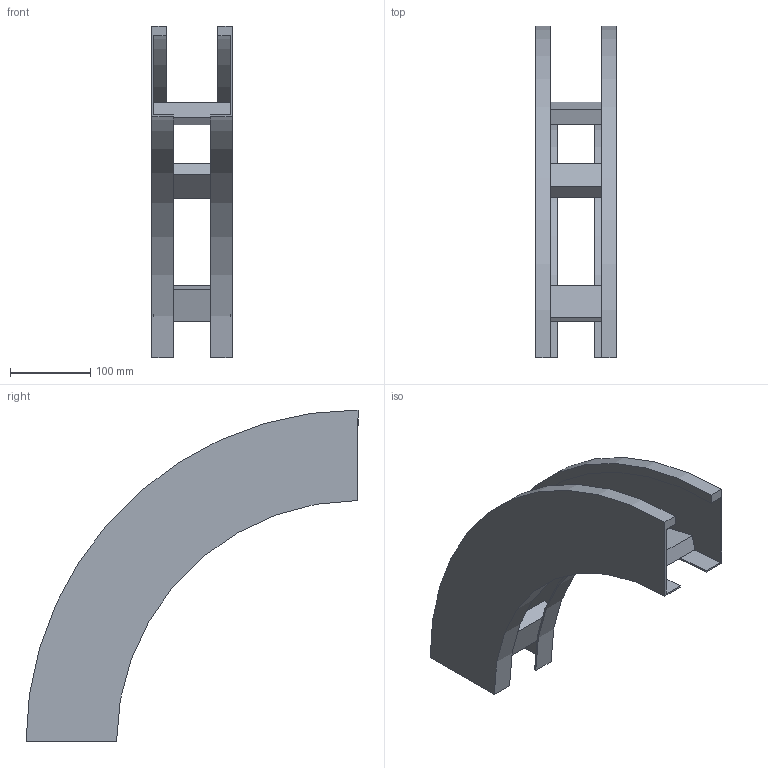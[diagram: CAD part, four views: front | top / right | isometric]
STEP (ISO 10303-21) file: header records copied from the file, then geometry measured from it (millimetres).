
FILE_DESCRIPTION (( 'STEP AP214' ), '1' );
FILE_NAME ('B2_33B3J100.step', '2025-02-21T15:03:59', ( '' ), ( '' ), 'SwSTEP 2.0', 'SolidWorks 2023', '' );
FILE_SCHEMA (( 'AUTOMOTIVE_DESIGN' ));
Length unit declared in the file: millimetre
Products named in the file (3): TRAVERSINO_100; B2_LONGH.DISCESA_90°_H112.5_R300; B2_33B3J100
Assembly tree (5 placements, depth 2):
  B2_33B3J100
    B2_LONGH.DISCESA_90°_H112.5_R300  x2
    TRAVERSINO_100  x3
Bounding box: 100 x 412.5 x 412.5 mm (x, y, z)
Volume: 777574.3 mm3; surface area: 386017.9 mm2
Topology: 5 solids, 5 shells, 38 faces, 84 edges, 56 vertices
Faces by surface type: plane 30, cylinder 8
Entity records: 560 total; most frequent: DIRECTION 92, CARTESIAN_POINT 84, ORIENTED_EDGE 72, EDGE_CURVE 36, AXIS2_PLACEMENT_3D 32, VECTOR 28, LINE 28, VERTEX_POINT 24
